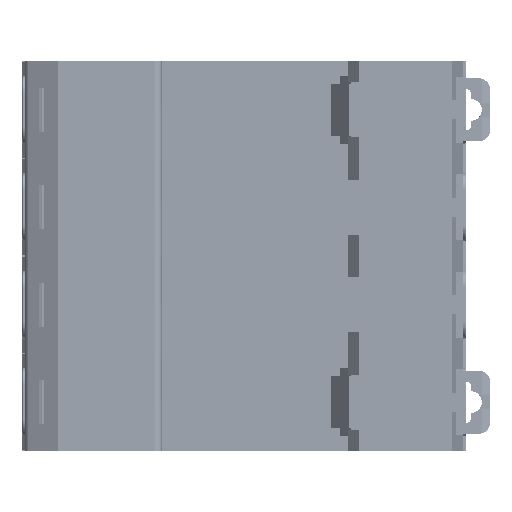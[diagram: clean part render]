
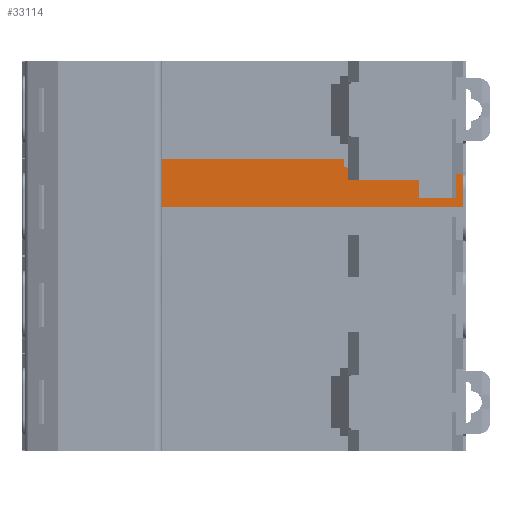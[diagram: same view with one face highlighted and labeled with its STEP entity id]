
A CAD part, front view. The second image highlights one B-rep face of the part: STEP entity #33114.
In plain terms, the highlighted planar face has unit normal (0, -1, 0).
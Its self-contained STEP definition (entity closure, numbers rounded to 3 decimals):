
#396 = EDGE_CURVE ( 'NONE', #527, #12067, #21991, .T. ) ;
#527 = VERTEX_POINT ( 'NONE', #35455 ) ;
#830 = CARTESIAN_POINT ( 'NONE',  ( -29.2, 0., 2.25 ) ) ;
#1133 = LINE ( 'NONE', #43223, #31849 ) ;
#1158 = DIRECTION ( 'NONE',  ( 1., 0., 0. ) ) ;
#2455 = VERTEX_POINT ( 'NONE', #2628 ) ;
#2628 = CARTESIAN_POINT ( 'NONE',  ( -31.7, 0., 1.45 ) ) ;
#3452 = VECTOR ( 'NONE', #12096, 1000. ) ;
#4200 = CARTESIAN_POINT ( 'NONE',  ( -22.7, 0., 1.45 ) ) ;
#4449 = VERTEX_POINT ( 'NONE', #45929 ) ;
#4774 = EDGE_CURVE ( 'NONE', #24439, #13453, #32369, .T. ) ;
#4817 = LINE ( 'NONE', #24245, #36157 ) ;
#5681 = ORIENTED_EDGE ( 'NONE', *, *, #30805, .T. ) ;
#6520 = EDGE_CURVE ( 'NONE', #13453, #4449, #39109, .T. ) ;
#6578 = DIRECTION ( 'NONE',  ( 1., 0., 0. ) ) ;
#7453 = VECTOR ( 'NONE', #36101, 1000. ) ;
#9658 = EDGE_CURVE ( 'NONE', #40725, #13569, #21179, .T. ) ;
#9693 = LINE ( 'NONE', #14607, #24533 ) ;
#9901 = CARTESIAN_POINT ( 'NONE',  ( -31.7, 0., 1.45 ) ) ;
#10123 = DIRECTION ( 'NONE',  ( 0.887, 0., -0.461 ) ) ;
#11150 = VECTOR ( 'NONE', #41839, 1000. ) ;
#11699 = CARTESIAN_POINT ( 'NONE',  ( 13.5, 0., -0.15 ) ) ;
#12067 = VERTEX_POINT ( 'NONE', #31521 ) ;
#12096 = DIRECTION ( 'NONE',  ( 1., 0., 0. ) ) ;
#13453 = VERTEX_POINT ( 'NONE', #11699 ) ;
#13569 = VERTEX_POINT ( 'NONE', #20337 ) ;
#14235 = ORIENTED_EDGE ( 'NONE', *, *, #9658, .F. ) ;
#14607 = CARTESIAN_POINT ( 'NONE',  ( -22.2, 0., 1.6 ) ) ;
#15085 = EDGE_CURVE ( 'NONE', #40725, #2455, #33271, .T. ) ;
#15650 = PLANE ( 'NONE',  #24305 ) ;
#16009 = DIRECTION ( 'NONE',  ( 1., 0., 0. ) ) ;
#17194 = ORIENTED_EDGE ( 'NONE', *, *, #15085, .T. ) ;
#17373 = CARTESIAN_POINT ( 'NONE',  ( -44., 0., 1.6 ) ) ;
#17493 = CARTESIAN_POINT ( 'NONE',  ( -34.2, 0., 2.75 ) ) ;
#18145 = VERTEX_POINT ( 'NONE', #19721 ) ;
#18189 = VECTOR ( 'NONE', #42538, 1000. ) ;
#18200 = CARTESIAN_POINT ( 'NONE',  ( 13.5, 0., 8.75 ) ) ;
#19313 = EDGE_CURVE ( 'NONE', #25238, #13569, #24277, .T. ) ;
#19487 = CARTESIAN_POINT ( 'NONE',  ( -22.2, 0., 1.6 ) ) ;
#19721 = CARTESIAN_POINT ( 'NONE',  ( -29.2, 0., 2.25 ) ) ;
#20337 = CARTESIAN_POINT ( 'NONE',  ( -44., 0., 2.75 ) ) ;
#20448 = LINE ( 'NONE', #830, #27308 ) ;
#21028 = ORIENTED_EDGE ( 'NONE', *, *, #38252, .F. ) ;
#21179 = LINE ( 'NONE', #37947, #41072 ) ;
#21454 = ORIENTED_EDGE ( 'NONE', *, *, #41177, .T. ) ;
#21608 = EDGE_LOOP ( 'NONE', ( #14235, #17194, #41332, #5681, #31464, #28964, #30463, #34841, #21454, #46063, #29226, #44845, #21028, #47076 ) ) ;
#21734 = CARTESIAN_POINT ( 'NONE',  ( 13.5, 0., 1.6 ) ) ;
#21991 = LINE ( 'NONE', #26661, #35060 ) ;
#22731 = EDGE_CURVE ( 'NONE', #26905, #4449, #9693, .T. ) ;
#23756 = CARTESIAN_POINT ( 'NONE',  ( -25.7, 0., 2.45 ) ) ;
#24223 = VECTOR ( 'NONE', #10123, 1000. ) ;
#24245 = CARTESIAN_POINT ( 'NONE',  ( -23.539, 0., 2.45 ) ) ;
#24277 = LINE ( 'NONE', #17373, #11150 ) ;
#24305 = AXIS2_PLACEMENT_3D ( 'NONE', #19487, #41238, #1158 ) ;
#24439 = VERTEX_POINT ( 'NONE', #18200 ) ;
#24533 = VECTOR ( 'NONE', #40030, 1000. ) ;
#25238 = VERTEX_POINT ( 'NONE', #34615 ) ;
#25428 = VERTEX_POINT ( 'NONE', #38758 ) ;
#25740 = LINE ( 'NONE', #26924, #3452 ) ;
#26030 = EDGE_CURVE ( 'NONE', #25428, #38544, #4817, .T. ) ;
#26661 = CARTESIAN_POINT ( 'NONE',  ( -26.5, 0., 1.45 ) ) ;
#26905 = VERTEX_POINT ( 'NONE', #41869 ) ;
#26924 = CARTESIAN_POINT ( 'NONE',  ( -25.7, 0., 2.45 ) ) ;
#27308 = VECTOR ( 'NONE', #37402, 1000. ) ;
#27843 = VECTOR ( 'NONE', #47182, 1000. ) ;
#28362 = EDGE_CURVE ( 'NONE', #33355, #25428, #25740, .T. ) ;
#28964 = ORIENTED_EDGE ( 'NONE', *, *, #42907, .T. ) ;
#29226 = ORIENTED_EDGE ( 'NONE', *, *, #6520, .F. ) ;
#30453 = FACE_OUTER_BOUND ( 'NONE', #21608, .T. ) ;
#30463 = ORIENTED_EDGE ( 'NONE', *, *, #28362, .T. ) ;
#30476 = EDGE_CURVE ( 'NONE', #2455, #18145, #44936, .T. ) ;
#30805 = EDGE_CURVE ( 'NONE', #18145, #527, #20448, .T. ) ;
#31464 = ORIENTED_EDGE ( 'NONE', *, *, #396, .T. ) ;
#31521 = CARTESIAN_POINT ( 'NONE',  ( -25.7, 0., 1.95 ) ) ;
#31539 = DIRECTION ( 'NONE',  ( 0.643, 0., -0.766 ) ) ;
#31849 = VECTOR ( 'NONE', #6578, 1000. ) ;
#32238 = CARTESIAN_POINT ( 'NONE',  ( -31.7, 0., 1.45 ) ) ;
#32369 = LINE ( 'NONE', #21734, #27843 ) ;
#33114 = ADVANCED_FACE ( 'NONE', ( #30453 ), #15650, .F. ) ;
#33256 = VECTOR ( 'NONE', #16009, 1000. ) ;
#33271 = LINE ( 'NONE', #32238, #24223 ) ;
#33355 = VERTEX_POINT ( 'NONE', #23756 ) ;
#34552 = CARTESIAN_POINT ( 'NONE',  ( 13.5, 0., -0.15 ) ) ;
#34615 = CARTESIAN_POINT ( 'NONE',  ( -44., 0., 8.75 ) ) ;
#34841 = ORIENTED_EDGE ( 'NONE', *, *, #26030, .T. ) ;
#34960 = LINE ( 'NONE', #45785, #33256 ) ;
#35060 = VECTOR ( 'NONE', #37309, 1000. ) ;
#35455 = CARTESIAN_POINT ( 'NONE',  ( -26.5, 0., 1.45 ) ) ;
#36101 = DIRECTION ( 'NONE',  ( 0., 0., 1. ) ) ;
#36157 = VECTOR ( 'NONE', #31539, 1000. ) ;
#36254 = CARTESIAN_POINT ( 'NONE',  ( -25.7, 0., 1.95 ) ) ;
#37309 = DIRECTION ( 'NONE',  ( 0.848, 0., 0.53 ) ) ;
#37402 = DIRECTION ( 'NONE',  ( 0.959, 0., -0.284 ) ) ;
#37947 = CARTESIAN_POINT ( 'NONE',  ( -44., 0., 2.75 ) ) ;
#38105 = DIRECTION ( 'NONE',  ( -1., 0., 0. ) ) ;
#38219 = DIRECTION ( 'NONE',  ( -1., 0., 0. ) ) ;
#38252 = EDGE_CURVE ( 'NONE', #25238, #24439, #1133, .T. ) ;
#38544 = VERTEX_POINT ( 'NONE', #4200 ) ;
#38758 = CARTESIAN_POINT ( 'NONE',  ( -23.539, 0., 2.45 ) ) ;
#39109 = LINE ( 'NONE', #34552, #46535 ) ;
#39950 = LINE ( 'NONE', #36254, #7453 ) ;
#40030 = DIRECTION ( 'NONE',  ( 0., 0., -1. ) ) ;
#40725 = VERTEX_POINT ( 'NONE', #17493 ) ;
#41072 = VECTOR ( 'NONE', #38105, 1000. ) ;
#41177 = EDGE_CURVE ( 'NONE', #38544, #26905, #34960, .T. ) ;
#41238 = DIRECTION ( 'NONE',  ( 0., 1., 0. ) ) ;
#41332 = ORIENTED_EDGE ( 'NONE', *, *, #30476, .T. ) ;
#41839 = DIRECTION ( 'NONE',  ( 0., 0., -1. ) ) ;
#41869 = CARTESIAN_POINT ( 'NONE',  ( -22.2, 0., 1.45 ) ) ;
#42538 = DIRECTION ( 'NONE',  ( 0.952, 0., 0.305 ) ) ;
#42907 = EDGE_CURVE ( 'NONE', #12067, #33355, #39950, .T. ) ;
#43223 = CARTESIAN_POINT ( 'NONE',  ( -22.2, 0., 8.75 ) ) ;
#44845 = ORIENTED_EDGE ( 'NONE', *, *, #4774, .F. ) ;
#44936 = LINE ( 'NONE', #9901, #18189 ) ;
#45785 = CARTESIAN_POINT ( 'NONE',  ( -22.7, 0., 1.45 ) ) ;
#45929 = CARTESIAN_POINT ( 'NONE',  ( -22.2, 0., -0.15 ) ) ;
#46063 = ORIENTED_EDGE ( 'NONE', *, *, #22731, .T. ) ;
#46535 = VECTOR ( 'NONE', #38219, 1000. ) ;
#47076 = ORIENTED_EDGE ( 'NONE', *, *, #19313, .T. ) ;
#47182 = DIRECTION ( 'NONE',  ( 0., 0., -1. ) ) ;
